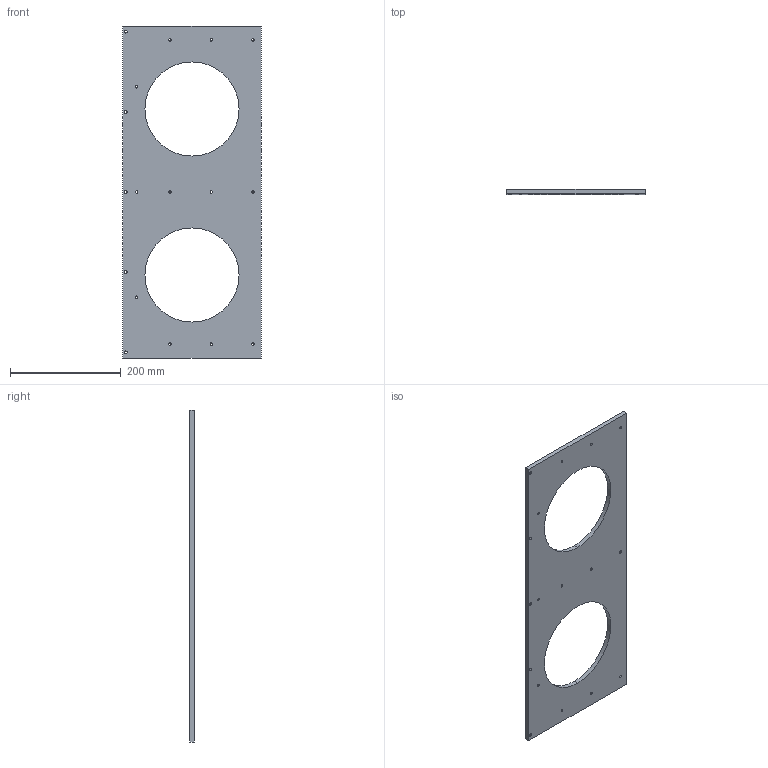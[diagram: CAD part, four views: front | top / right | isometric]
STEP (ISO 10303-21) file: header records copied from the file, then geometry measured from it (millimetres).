
FILE_DESCRIPTION (( 'STEP AP214' ), '1' );
FILE_NAME ('嘋_靥奶呲澳.STEP', '2024-05-01T07:18:43', ( '' ), ( '' ), 'SwSTEP 2.0', 'SolidWorks 2023', '' );
FILE_SCHEMA (( 'AUTOMOTIVE_DESIGN' ));
Length unit declared in the file: millimetre
Products named in the file (1): ④_ﾘﾌﾄﾌﾟﾚｰﾄ
Bounding box: 250 x 8 x 600 mm (x, y, z)
Volume: 833012.3 mm3; surface area: 233217.1 mm2
Topology: 1 solids, 1 shells, 71 faces, 180 edges, 120 vertices
Faces by surface type: cylinder 56, plane 15
Entity records: 2305 total; most frequent: DIRECTION 436, CARTESIAN_POINT 372, ORIENTED_EDGE 360, AXIS2_PLACEMENT_3D 184, EDGE_CURVE 180, VERTEX_POINT 120, EDGE_LOOP 118, CIRCLE 112
